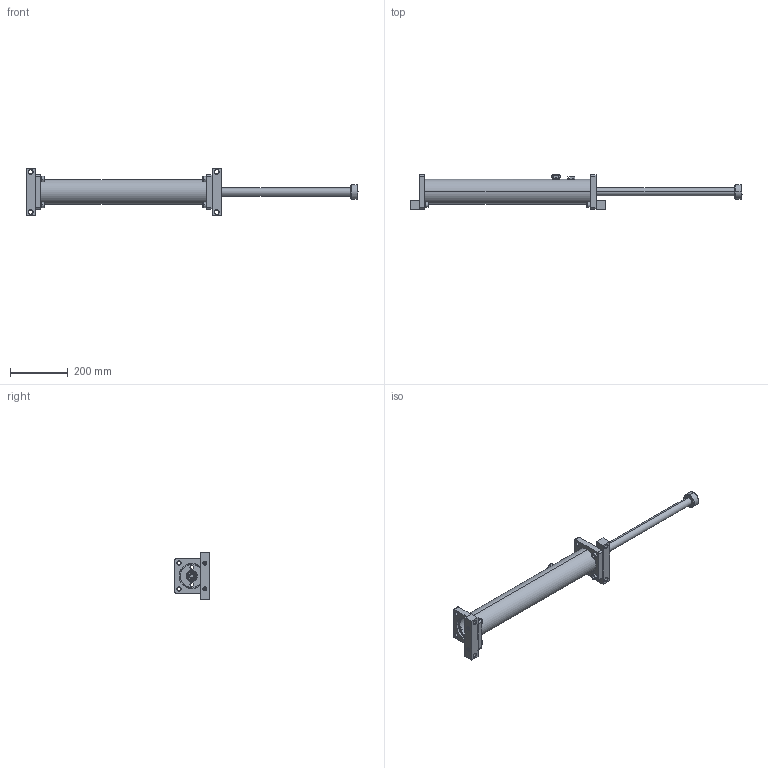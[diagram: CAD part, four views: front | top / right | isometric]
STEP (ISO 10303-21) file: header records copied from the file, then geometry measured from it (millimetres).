
FILE_DESCRIPTION (( 'STEP AP214' ), '1' );
FILE_NAME ('LDD1.5X18.STEP', '2019-01-16T05:41:31', ( 'user' ), ( 'Microsoft' ), 'SwSTEP 2.0', 'SolidWorks 2016', '' );
FILE_SCHEMA (( 'AUTOMOTIVE_DESIGN' ));
Length unit declared in the file: inch
Products named in the file (1): LDD1.5X18
Bounding box: 1153 x 121 x 165 mm (x, y, z)
Surface area: 350503.4 mm2 (no closed solid volume)
Topology: 0 solids, 23 shells, 270 faces, 717 edges, 478 vertices
Faces by surface type: plane 97, cylinder 83, cone 62, bspline 28
Entity records: 13913 total; most frequent: CARTESIAN_POINT 7230, DIRECTION 1408, ORIENTED_EDGE 1300, EDGE_CURVE 717, AXIS2_PLACEMENT_3D 550, VERTEX_POINT 478, EDGE_LOOP 327, VECTOR 308
